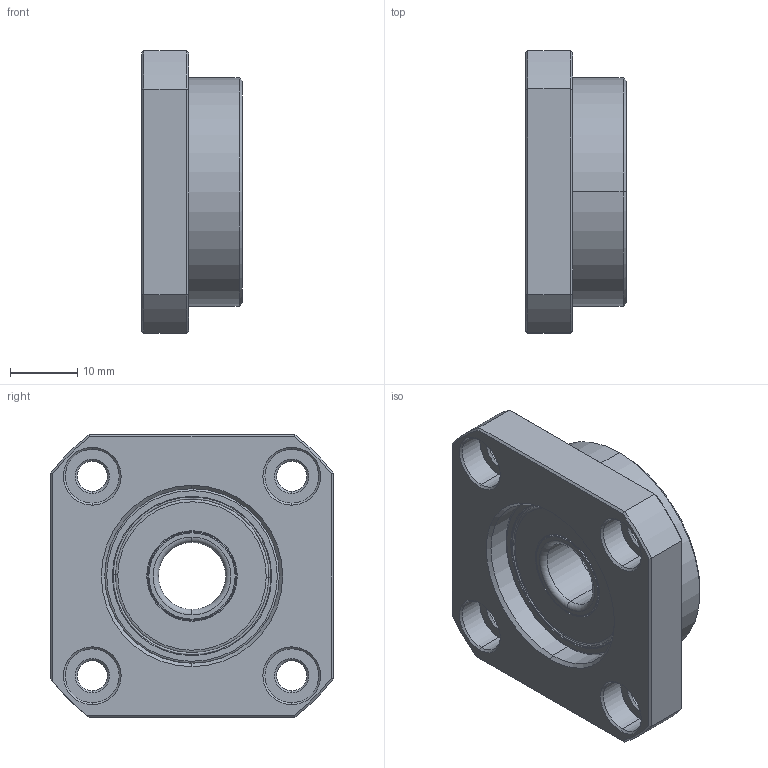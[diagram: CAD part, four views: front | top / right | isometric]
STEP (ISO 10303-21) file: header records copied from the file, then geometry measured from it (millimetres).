
FILE_DESCRIPTION (( 'STEP AP203' ), '1' );
FILE_NAME ('FF12²Õ¦X¥ó.STEP', '2017-03-10T00:27:45', ( '' ), ( '' ), 'SwSTEP 2.0', 'SolidWorks 2016', '' );
FILE_SCHEMA (( 'CONFIG_CONTROL_DESIGN' ));
Length unit declared in the file: millimetre
Products named in the file (7): 鋼珠3.96875; 6000外圈; 6000端蓋; FF12組合件; 6000; FF12; 6000內圈
Assembly tree (14 placements, depth 3):
  FF12組合件
    FF12
    6000
      6000內圈
      鋼珠3.96875  x8
      6000外圈
      6000端蓋  x2
Bounding box: 15 x 42 x 42 mm (x, y, z)
Volume: 12719.3 mm3; surface area: 9848.6 mm2
Topology: 13 solids, 13 shells, 206 faces, 451 edges, 264 vertices
Faces by surface type: torus 66, cylinder 52, cone 41, plane 31, sphere 16
Entity records: 5665 total; most frequent: DIRECTION 974, CARTESIAN_POINT 807, ORIENTED_EDGE 722, AXIS2_PLACEMENT_3D 437, EDGE_CURVE 361, CIRCLE 245, VERTEX_POINT 206, EDGE_LOOP 199
